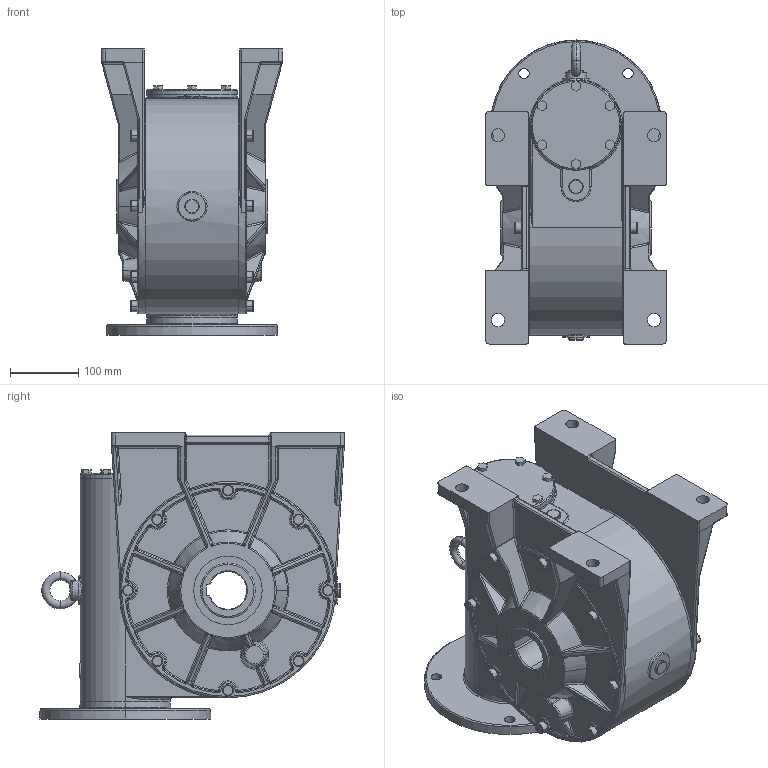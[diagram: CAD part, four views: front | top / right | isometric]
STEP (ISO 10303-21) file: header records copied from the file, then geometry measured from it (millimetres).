
FILE_DESCRIPTION (( 'STEP AP214' ), '1' );
FILE_NAME ('Sestava MRT150-V-F215.STEP', '2007-07-03T11:27:31', ( '' ), ( '' ), 'SwSTEP 2.0', 'SolidWorks 2004146', '' );
FILE_SCHEMA (( 'AUTOMOTIVE_DESIGN' ));
Products named in the file (3): Skrin MRT150_Mrt150-215-AP100; Patka 150_Výchozí; Sestava MRT150-V-F215
Assembly tree (3 placements, depth 2):
  Sestava MRT150-V-F215
    Patka 150_Výchozí  x2
    Skrin MRT150_Mrt150-215-AP100
Bounding box: 264 x 445 x 418 mm (x, y, z)
Volume: 18800076.4 mm3; surface area: 1157141.4 mm2
Topology: 3 solids, 3 shells, 1334 faces, 3183 edges, 1850 vertices
Faces by surface type: torus 403, cylinder 277, bspline 264, plane 213, sphere 120, cone 57
Entity records: 112954 total; most frequent: CARTESIAN_POINT 95591, DIRECTION 3670, ORIENTED_EDGE 3664, EDGE_CURVE 1832, AXIS2_PLACEMENT_3D 1615, VERTEX_POINT 1082, CIRCLE 974, EDGE_LOOP 818
